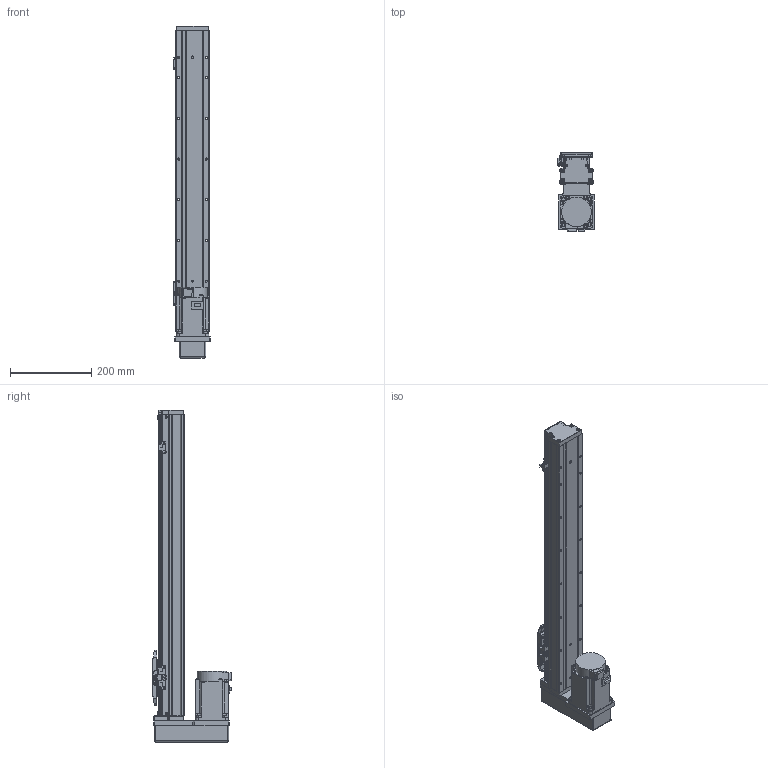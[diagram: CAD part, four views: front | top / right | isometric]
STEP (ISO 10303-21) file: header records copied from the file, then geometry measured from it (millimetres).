
FILE_DESCRIPTION (( 'STEP AP203' ), '1' );
FILE_NAME ('GTH8-550-BM-M75-C4.step', '2023-02-14T02:29:03', ( '微软用户' ), ( '微软中国' ), 'SwSTEP 2.0', 'SolidWorks 2020', '' );
FILE_SCHEMA (( 'CONFIG_CONTROL_DESIGN' ));
Length unit declared in the file: millimetre
Products named in the file (18): CTHA86-015-3_CTHA86-015-4; GTH80-003; GBT 70.1-M4×16; CTHA86-035; GTH80-004; GTH80-028; hg-kn73j_-s100; GTH80-006; GTH50-024; GTH8-550-BM-M75-C4; GTH80-013; GTH50-023; GBT 70.3-M3℅6; GBT96.1-2002 3×0.8; GTH80-022; BTH-M3X5X6; GTH80-001_550; GBT 70.1-M3℅6
Assembly tree (57 placements, depth 2):
  GTH8-550-BM-M75-C4
    GTH80-001_550
    GTH80-003
    GTH80-004
    GTH80-006
    GTH80-013
    GBT 70.3-M3℅6  x4
    GTH80-022
    GBT 70.1-M3℅6  x14
    GBT 70.1-M4×16  x8
    GTH80-028  x2
    GTH50-024  x3
    GTH50-023  x3
    GBT96.1-2002 3×0.8  x6
    BTH-M3X5X6  x8
    CTHA86-015-3_CTHA86-015-4
    CTHA86-035
    hg-kn73j_-s100
Bounding box: 89.4 x 195.3 x 816 mm (x, y, z)
Volume: 4749948.6 mm3; surface area: 489275 mm2
Topology: 59 solids, 59 shells, 2195 faces, 5094 edges, 3120 vertices
Faces by surface type: plane 1153, cylinder 627, cone 243, torus 158, sphere 12, bspline 2
Entity records: 39588 total; most frequent: CARTESIAN_POINT 6647, DIRECTION 6529, ORIENTED_EDGE 5998, EDGE_CURVE 2999, AXIS2_PLACEMENT_3D 2302, LINE 1925, VECTOR 1925, VERTEX_POINT 1895
